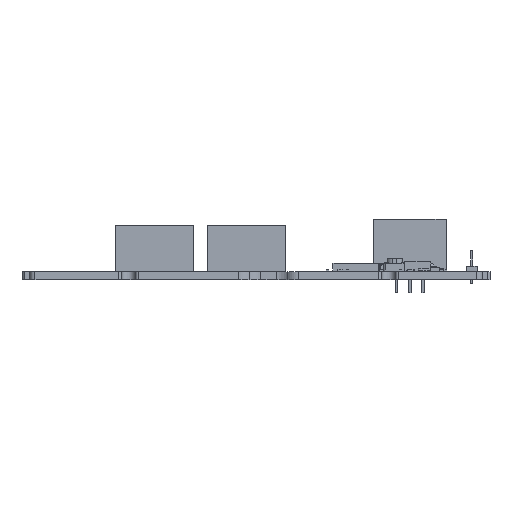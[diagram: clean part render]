
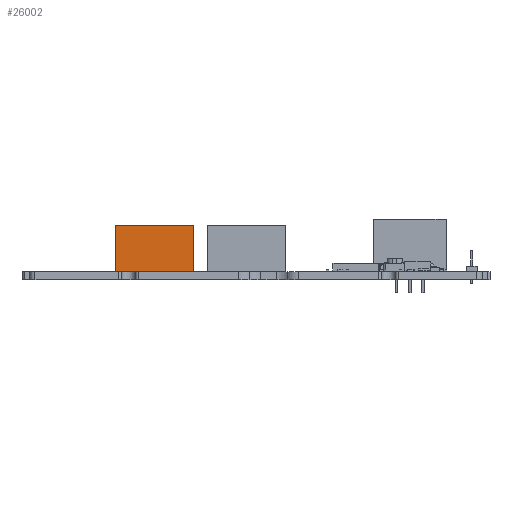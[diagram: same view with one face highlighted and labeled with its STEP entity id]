
A CAD part, front view. The second image highlights one B-rep face of the part: STEP entity #26002.
In plain terms, the highlighted planar face has unit normal (0, -1, 0).
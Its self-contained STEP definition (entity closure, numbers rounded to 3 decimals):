
#25977 = VERTEX_POINT('',#25978);
#25978 = CARTESIAN_POINT('',(32.492,5.673,8.9)
  );
#25984 = EDGE_CURVE('',#25985,#25977,#25987,.T.);
#25985 = VERTEX_POINT('',#25986);
#25986 = CARTESIAN_POINT('',(32.492,5.673,0.));
#25987 = LINE('',#25988,#25989);
#25988 = CARTESIAN_POINT('',(32.492,5.673,0.));
#25989 = VECTOR('',#25990,1.);
#25990 = DIRECTION('',(0.,0.,1.));
#26002 = ADVANCED_FACE('',(#26003),#26028,.T.);
#26003 = FACE_BOUND('',#26004,.T.);
#26004 = EDGE_LOOP('',(#26005,#26006,#26014,#26022));
#26005 = ORIENTED_EDGE('',*,*,#25984,.T.);
#26006 = ORIENTED_EDGE('',*,*,#26007,.T.);
#26007 = EDGE_CURVE('',#25977,#26008,#26010,.T.);
#26008 = VERTEX_POINT('',#26009);
#26009 = CARTESIAN_POINT('',(17.392,5.673,8.9)
  );
#26010 = LINE('',#26011,#26012);
#26011 = CARTESIAN_POINT('',(32.492,5.673,8.9)
  );
#26012 = VECTOR('',#26013,1.);
#26013 = DIRECTION('',(-1.,0.,0.));
#26014 = ORIENTED_EDGE('',*,*,#26015,.F.);
#26015 = EDGE_CURVE('',#26016,#26008,#26018,.T.);
#26016 = VERTEX_POINT('',#26017);
#26017 = CARTESIAN_POINT('',(17.392,5.673,0.));
#26018 = LINE('',#26019,#26020);
#26019 = CARTESIAN_POINT('',(17.392,5.673,0.));
#26020 = VECTOR('',#26021,1.);
#26021 = DIRECTION('',(0.,0.,1.));
#26022 = ORIENTED_EDGE('',*,*,#26023,.F.);
#26023 = EDGE_CURVE('',#25985,#26016,#26024,.T.);
#26024 = LINE('',#26025,#26026);
#26025 = CARTESIAN_POINT('',(32.492,5.673,0.));
#26026 = VECTOR('',#26027,1.);
#26027 = DIRECTION('',(-1.,0.,0.));
#26028 = PLANE('',#26029);
#26029 = AXIS2_PLACEMENT_3D('',#26030,#26031,#26032);
#26030 = CARTESIAN_POINT('',(32.492,5.673,0.));
#26031 = DIRECTION('',(0.,-1.,0.));
#26032 = DIRECTION('',(-1.,0.,0.));
